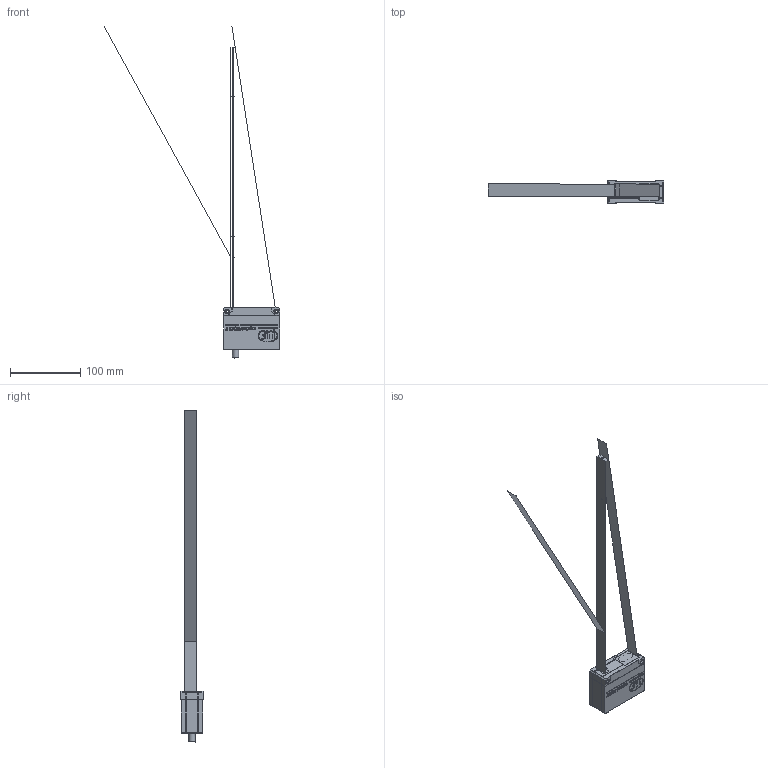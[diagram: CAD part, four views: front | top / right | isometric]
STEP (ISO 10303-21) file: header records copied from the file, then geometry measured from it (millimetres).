
FILE_DESCRIPTION (( 'STEP AP214' ), '1' );
FILE_NAME ('ILD5500-200_Sensormodell_mit_Bauraum.STEP', '2024-11-27T10:05:45', ( '' ), ( '' ), 'SwSTEP 2.0', 'SolidWorks 2022', '' );
FILE_SCHEMA (( 'AUTOMOTIVE_DESIGN' ));
Length unit declared in the file: millimetre
Products named in the file (1): ILD5500-200_Sensormodell_mit_Bauraum
Bounding box: 249.9 x 32 x 472.35 mm (x, y, z)
Surface area: 44562.3 mm2 (no closed solid volume)
Topology: 0 solids, 14 shells, 1671 faces, 4422 edges, 2890 vertices
Faces by surface type: plane 816, bspline 673, cylinder 112, cone 56, torus 14
Full cylindrical faces by diameter (mm): 0.7 x1, 0.8 x1, 2.4 x2, 3.3 x2, 3.5 x1, 4 x1, 6 x2, 8.8 x1, 10 x2, 10.5 x2
Entity records: 80485 total; most frequent: CARTESIAN_POINT 25530, ORIENTED_EDGE 8710, DIRECTION 5256, EDGE_CURVE 4365, VERTEX_POINT 2871, VECTOR 2724, LINE 2724, EDGE_LOOP 1831
